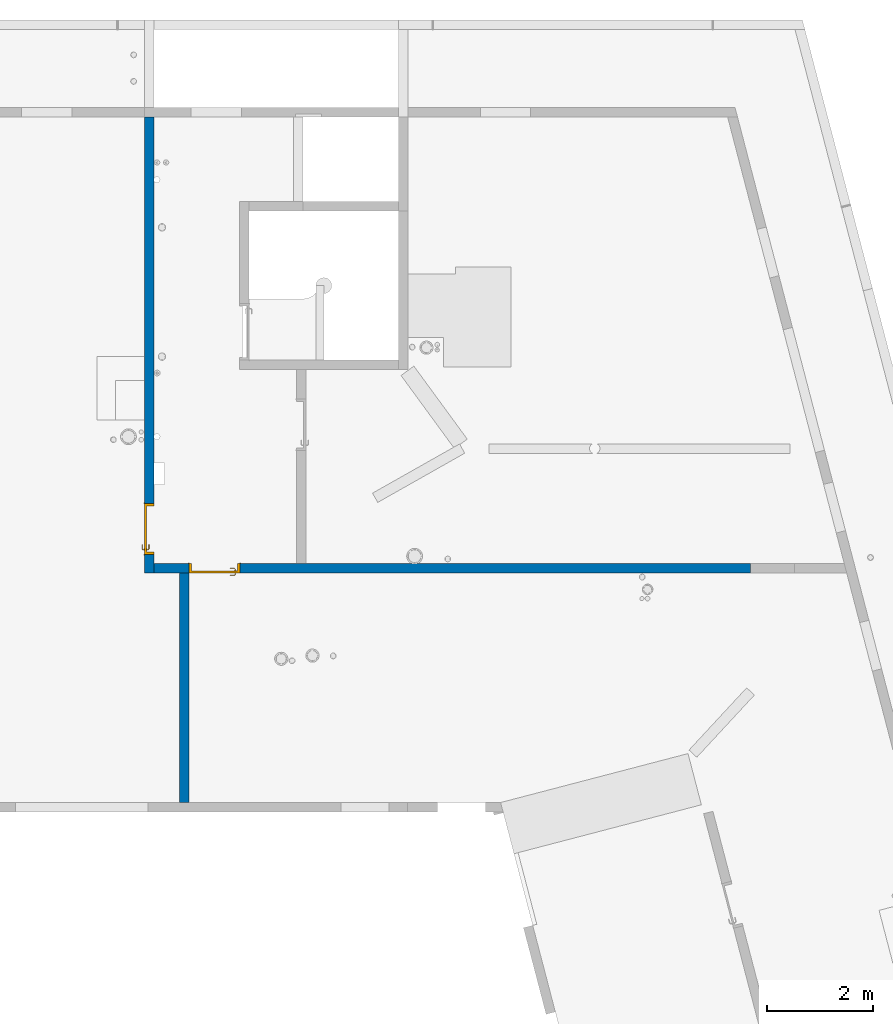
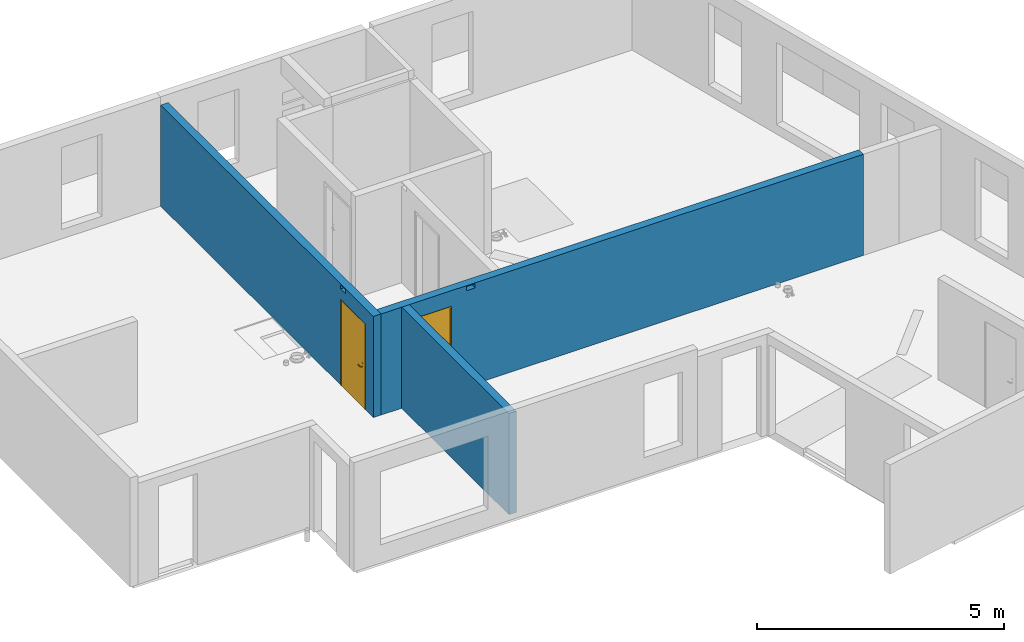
# One storey, part 13 of 28: 3 walls, 2 doors, 4 openings.
"""IFC2X3 building model written with IfcOpenShell, lengths in centimetres."""

from ifc_helpers import new_model, entity, si_unit, converted_unit, derived_unit, direction, frame, frame_2d, origin, place, context, subcontext, project, spatial, rectangle, extrude, faceted_brep, source, transform, mapped, material, material_list, layer, layer_set, layer_usage, type_object, type_shapes, element, fill, save


model = new_model("IFC2X3")

# Units and contexts
model_context = context("Model", 3, precision=0.001, world=origin(), true_north=direction((6.12303176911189e-17, 1.0)))
body_context = subcontext(model_context, "Body", "Model", "MODEL_VIEW")
ifc_project = project(units=[si_unit("LENGTHUNIT", "METRE", prefix="CENTI"), si_unit("AREAUNIT", "SQUARE_METRE"), si_unit("VOLUMEUNIT", "CUBIC_METRE"), converted_unit("PLANEANGLEUNIT", "DEGREE", entity("IfcRatioMeasure", 0.0174532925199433), si_unit("PLANEANGLEUNIT", "RADIAN"), dimensions=[0, 0, 0, 0, 0, 0, 0]), si_unit("MASSUNIT", "GRAM", prefix="KILO"), derived_unit("MASSDENSITYUNIT", [(si_unit("MASSUNIT", "GRAM", prefix="KILO"), 1), (si_unit("LENGTHUNIT", "METRE"), -3)]), si_unit("TIMEUNIT", "SECOND"), si_unit("FREQUENCYUNIT", "HERTZ"), si_unit("THERMODYNAMICTEMPERATUREUNIT", "DEGREE_CELSIUS"), derived_unit("THERMALTRANSMITTANCEUNIT", [(si_unit("MASSUNIT", "GRAM", prefix="KILO"), 1), (si_unit("THERMODYNAMICTEMPERATUREUNIT", "KELVIN"), -1), (si_unit("TIMEUNIT", "SECOND"), -3)]), derived_unit("VOLUMETRICFLOWRATEUNIT", [(si_unit("LENGTHUNIT", "METRE"), 3), (si_unit("TIMEUNIT", "SECOND"), -1)]), si_unit("ELECTRICCURRENTUNIT", "AMPERE"), si_unit("ELECTRICVOLTAGEUNIT", "VOLT"), si_unit("POWERUNIT", "WATT"), si_unit("FORCEUNIT", "NEWTON"), si_unit("ILLUMINANCEUNIT", "LUX"), si_unit("LUMINOUSFLUXUNIT", "LUMEN"), si_unit("LUMINOUSINTENSITYUNIT", "CANDELA"), derived_unit("USERDEFINED", [(si_unit("MASSUNIT", "GRAM", prefix="KILO"), -1), (si_unit("LENGTHUNIT", "METRE"), -2), (si_unit("TIMEUNIT", "SECOND"), 3), (si_unit("LUMINOUSFLUXUNIT", "LUMEN"), 1)]), derived_unit("LINEARVELOCITYUNIT", [(si_unit("LENGTHUNIT", "METRE"), 1), (si_unit("TIMEUNIT", "SECOND"), -1)]), si_unit("PRESSUREUNIT", "PASCAL"), derived_unit("USERDEFINED", [(si_unit("LENGTHUNIT", "METRE"), -2), (si_unit("MASSUNIT", "GRAM", prefix="KILO"), 1), (si_unit("TIMEUNIT", "SECOND"), -2)])], contexts=[model_context])

# Site, building, storey
site_placement = place(None, origin())
site = spatial("IfcSite", under=ifc_project, at=site_placement, Name="Default", CompositionType="ELEMENT")
building_placement = place(site_placement, origin())
building = spatial("IfcBuilding", under=site, at=building_placement, Name="CAGE 03", CompositionType="ELEMENT")
storey_placement = place(building_placement, frame((0.0, 0.0, 1420.0)))
storey = spatial("IfcBuildingStorey", under=building, at=storey_placement, Name="R+5", CompositionType="ELEMENT", Elevation=1420.0)

# Wall, openings, door
ifc_material_1 = material(Name="Béton, C25/30")
ifc_layer = layer(ifc_material_1, 18.0)
ifc_layer_set = layer_set([ifc_layer], Name="Mur de base:Voile BA 18")
ifc_layer_usage_1 = layer_usage(ifc_layer_set, "AXIS2", "POSITIVE", -9.0)
wall_type = type_object("IfcWallType", Name="Mur de base:Voile BA 18", PredefinedType="STANDARD", material=ifc_layer_set)
wall_1_placement = place(storey_placement, frame((10019.3658201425, 4248.66066607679, 0.0), z_axis=(0.0, 0.0, 1.0), x_axis=(0.0, 1.0, 0.0)))
wall_1 = element("IfcWallStandardCase", 1, at=wall_1_placement, inside=storey, type_object=wall_type, material=ifc_layer_usage_1, Name="Mur de base:Voile BA 18", ObjectType="Mur de base:Voile BA 18", context=body_context, shape_type="SweptSolid", body=[
    extrude(rectangle(XDim=862.0, YDim=17.9999999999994, at=frame_2d((431.0, 3.99680288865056e-14), x_axis=(-1.0, 0.0))), origin(), (0.0, 0.0, 1.0), 250.0),
])
opening_1_placement = place(wall_1_placement, origin())
element("IfcOpeningElement", 2, at=opening_1_placement, cuts=wall_1, Name="Mur de base:Voile BA 18", ObjectType="Opening", context=body_context, shape_type="SweptSolid", body=[
    extrude(rectangle(XDim=10.0000000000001, YDim=19.9999999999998, at=frame_2d((1.08357767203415e-13, -4.33431068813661e-13), x_axis=(1.0, 0.0))), frame((123.0, -9.0, 242.500000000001), z_axis=(0.0, 1.0, 0.0), x_axis=(0.0, 0.0, -1.0)), (0.0, 0.0, 1.0), 17.9999999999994),
])
opening_2_placement = place(wall_1_placement, frame((34.4999999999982, -9.0, 0.0)))
opening_2 = element("IfcOpeningElement", 3, at=opening_2_placement, cuts=wall_1, Name="Int. Simple:HB93:1", ObjectType="Opening", context=body_context, shape_type="SweptSolid", body=[
    extrude(rectangle(XDim=210.000000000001, YDim=96.9999999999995, at=frame_2d((105.000000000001, 48.4999999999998), x_axis=(1.0, 0.0))), frame((0.0, 0.0, 0.0), z_axis=(0.0, 1.0, 0.0), x_axis=(0.0, 0.0, 1.0)), (0.0, 0.0, 1.0), 18.0),
])
ifc_material_2 = material(Name="Finition Peinture - Blanc satiné")
ifc_material_3 = material(Name="Bois - Panneau de porte")
ifc_material_4 = material(Name="Bois - Cadre de porte")
ifc_material_list_1 = material_list([ifc_material_2, ifc_material_3, ifc_material_4])
ifc_material_list_2 = material_list([ifc_material_2, ifc_material_3, ifc_material_4])
door_style = type_object("IfcDoorStyle", Name="HB93", ConstructionType="NOTDEFINED", OperationType="SINGLE_SWING_RIGHT", ParameterTakesPrecedence=False, Sizeable=False, material=ifc_material_list_2)
shared_shape = source(origin(), body_context, "Body", "Brep", [
    faceted_brep([(96.5000000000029, -0.500000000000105, 87.0), (96.5000000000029, -0.500000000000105, 108.0), (95.535276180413, -0.500000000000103, 108.399601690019), (94.5000000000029, -0.500000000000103, 108.535898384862), (93.4647238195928, -0.500000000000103, 108.399601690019), (92.5000000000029, -0.500000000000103, 108.0), (92.5000000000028, -0.500000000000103, 87.0), (93.4647238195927, -0.500000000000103, 86.6003983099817), (94.5000000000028, -0.500000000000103, 86.464101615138), (95.5352761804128, -0.500000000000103, 86.6003983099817), (96.5000000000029, 0.0, 108.0), (96.5000000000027, 0.0, 87.0), (95.5352761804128, 0.0, 86.6003983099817), (94.5000000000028, 0.0, 86.464101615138), (93.4647238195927, 0.0, 86.6003983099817), (92.5000000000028, 0.0, 87.0), (92.5000000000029, 0.0, 108.0), (93.4647238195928, 0.0, 108.399601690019), (94.5000000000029, 0.0, 108.535898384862), (95.535276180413, 0.0, 108.399601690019)], [[[0, 1, 2, 3, 4, 5, 6, 7, 8, 9]], [[10, 11, 12, 13, 14, 15, 16, 17, 18, 19]], [[9, 12, 11, 0]], [[8, 13, 12, 9]], [[7, 14, 13, 8]], [[7, 6, 15, 14]], [[15, 6, 5, 16]], [[4, 17, 16, 5]], [[3, 18, 17, 4]], [[2, 19, 18, 3]], [[2, 1, 10, 19]], [[11, 10, 1, 0]]]),
    faceted_brep([(96.5000000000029, 4.0, 87.0), (96.5000000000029, 4.0, 108.0), (95.535276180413, 4.0, 108.399601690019), (94.5000000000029, 4.0, 108.535898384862), (93.4647238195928, 4.0, 108.399601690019), (92.500000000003, 4.0, 108.0), (92.5000000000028, 4.0, 87.0), (93.4647238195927, 4.0, 86.6003983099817), (94.5000000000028, 4.0, 86.464101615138), (95.5352761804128, 4.0, 86.6003983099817), (94.5000000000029, 4.49999999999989, 108.535898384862), (95.535276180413, 4.49999999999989, 108.399601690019), (96.5000000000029, 4.49999999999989, 108.0), (96.5000000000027, 4.49999999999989, 87.0), (95.5352761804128, 4.49999999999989, 86.6003983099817), (94.5000000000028, 4.49999999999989, 86.464101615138), (93.4647238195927, 4.49999999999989, 86.6003983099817), (92.5000000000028, 4.4999999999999, 87.0), (92.5000000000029, 4.4999999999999, 108.0), (93.4647238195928, 4.49999999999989, 108.399601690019)], [[[0, 1, 2, 3, 4, 5, 6, 7, 8, 9]], [[10, 11, 12, 13, 14, 15, 16, 17, 18, 19]], [[4, 19, 18, 5]], [[3, 10, 19, 4]], [[2, 11, 10, 3]], [[2, 1, 12, 11]], [[13, 12, 1, 0]], [[9, 14, 13, 0]], [[8, 15, 14, 9]], [[7, 16, 15, 8]], [[7, 6, 17, 16]], [[17, 6, 5, 18]]]),
    faceted_brep([(94.2974701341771, -0.500000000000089, 100.778044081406), (94.7025298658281, -0.500000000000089, 100.778044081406), (95.100000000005, -0.500000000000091, 100.699999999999), (95.100000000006, -0.500000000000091, 99.2999999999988), (94.7025298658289, -0.500000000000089, 99.221955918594), (94.297470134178, -0.500000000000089, 99.2219559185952), (93.9000000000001, -0.500000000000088, 99.3000000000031), (93.9000000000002, -0.500000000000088, 100.7), (94.7025298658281, -3.10045754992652, 100.778044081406), (95.1000000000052, -3.26509507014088, 100.7), (94.2974701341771, -2.93267631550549, 100.778044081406), (92.9298602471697, -4.30028620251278, 100.778044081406), (93.0976414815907, -4.70534593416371, 100.778044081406), (93.9000000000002, -2.76803879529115, 100.7), (93.9000000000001, -2.76803879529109, 99.3000000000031), (94.297470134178, -2.93267631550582, 99.2219559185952), (94.7025298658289, -3.10045754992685, 99.221955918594), (93.0976414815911, -4.70534593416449, 99.221955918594), (92.9298602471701, -4.30028620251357, 99.2219559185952), (95.100000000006, -3.26509507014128, 99.2999999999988), (93.2622790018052, -5.1028160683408, 100.7), (92.7652227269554, -3.90281606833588, 100.7), (92.7652227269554, -3.90281606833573, 99.3000000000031), (93.2622790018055, -5.10281606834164, 99.2999999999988), (84.4981359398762, -5.10281606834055, 100.7), (84.4981359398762, -4.70534593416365, 100.778044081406), (84.4981359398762, -4.30028620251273, 100.778044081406), (84.4981359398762, -3.90281606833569, 100.699999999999), (84.4981359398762, -3.90281606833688, 99.3000000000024), (84.4981359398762, -4.30028620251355, 99.2219559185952), (84.4981359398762, -4.70534593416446, 99.221955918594), (84.4981359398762, -5.10281606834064, 99.2999999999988), (88.7139980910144, -4.5028160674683, 100.78786867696), (89.2692302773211, -5.1028160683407, 100.7), (88.6316793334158, -3.90281606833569, 100.7), (88.631679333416, -3.90281606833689, 99.3000000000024), (88.7139981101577, -4.50281607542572, 99.2121313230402), (89.2692310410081, -5.10281606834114, 99.2999999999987)], [[[0, 1, 2, 3, 4, 5, 6, 7]], [[2, 1, 8, 9]], [[1, 0, 10, 11, 12, 8]], [[0, 7, 13, 10]], [[14, 13, 7, 6]], [[5, 15, 14, 6]], [[5, 4, 16, 17, 18, 15]], [[3, 19, 16, 4]], [[9, 19, 3, 2]], [[9, 8, 12, 20]], [[10, 13, 21, 11]], [[22, 21, 13, 14]], [[14, 15, 18, 22]], [[16, 19, 23, 17]], [[20, 23, 19, 9]], [[24, 25, 26, 27, 28, 29, 30, 31]], [[32, 25, 33]], [[33, 25, 24]], [[33, 20, 12]], [[11, 34, 32]], [[34, 11, 21]], [[27, 26, 34]], [[32, 26, 25]], [[32, 34, 26]], [[32, 33, 12]], [[11, 32, 12]], [[21, 22, 35, 28, 27, 34]], [[36, 29, 35]], [[30, 36, 37]], [[18, 35, 22]], [[29, 28, 35]], [[30, 37, 31]], [[37, 17, 23]], [[36, 17, 37]], [[36, 18, 17]], [[36, 35, 18]], [[29, 36, 30]], [[23, 20, 33, 24, 31, 37]]]),
    faceted_brep([(94.2974701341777, 4.49999999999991, 99.2219559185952), (94.7025298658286, 4.49999999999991, 99.221955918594), (95.1000000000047, 4.49999999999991, 99.2999999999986), (95.1000000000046, 4.49999999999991, 100.7), (94.7025298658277, 4.49999999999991, 100.778044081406), (94.2974701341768, 4.49999999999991, 100.778044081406), (93.8999999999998, 4.49999999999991, 100.7), (93.900000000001, 4.49999999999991, 99.3000000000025), (93.8999999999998, 6.7485204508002, 100.7), (93.8999999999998, 6.74852045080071, 99.3000000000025), (94.2974701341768, 6.91315797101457, 100.778044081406), (94.7025298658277, 7.0809392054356, 100.778044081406), (93.0838906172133, 8.69957845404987, 100.778044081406), (92.9161093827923, 8.29451872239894, 100.778044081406), (95.1000000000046, 7.24557672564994, 100.7), (95.1000000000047, 7.24557672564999, 99.2999999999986), (94.7025298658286, 7.08093920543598, 99.221955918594), (94.2974701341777, 6.91315797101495, 99.2219559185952), (92.9161093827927, 8.29451872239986, 99.2219559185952), (93.0838906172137, 8.69957845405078, 99.221955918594), (92.751471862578, 7.89704858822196, 100.7), (92.7514718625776, 7.89704858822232, 99.3000000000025), (93.2485281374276, 9.09704858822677, 100.7), (93.2485281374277, 9.09704858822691, 99.2999999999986), (84.4954216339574, 8.29451872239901, 100.778044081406), (84.4954216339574, 8.69957845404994, 100.778044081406), (84.4954216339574, 9.09704858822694, 100.7), (84.4954216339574, 9.09704858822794, 99.2999999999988), (84.4954216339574, 8.6995784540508, 99.221955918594), (84.4954216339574, 8.29451872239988, 99.2219559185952), (84.4954216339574, 7.89704858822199, 99.3000000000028), (84.4954216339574, 7.89704858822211, 100.7), (88.6234467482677, 7.89704858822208, 100.7), (88.6234479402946, 7.89704858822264, 99.3000000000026), (88.7057655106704, 8.49704858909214, 100.78786867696), (89.255479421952, 9.09704858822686, 100.7), (89.2554795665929, 9.09704858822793, 99.2999999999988), (88.7057654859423, 8.49704858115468, 99.2121313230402)], [[[0, 1, 2, 3, 4, 5, 6, 7]], [[8, 9, 7, 6]], [[5, 10, 8, 6]], [[5, 4, 11, 12, 13, 10]], [[3, 14, 11, 4]], [[14, 3, 2, 15]], [[2, 1, 16, 15]], [[1, 0, 17, 18, 19, 16]], [[0, 7, 9, 17]], [[20, 21, 9, 8]], [[8, 10, 13, 20]], [[14, 22, 12, 11]], [[23, 22, 14, 15]], [[15, 16, 19, 23]], [[17, 9, 21, 18]], [[24, 25, 26, 27, 28, 29, 30, 31]], [[21, 20, 32, 31, 30, 33]], [[34, 24, 32]], [[25, 34, 35]], [[13, 32, 20]], [[24, 31, 32]], [[25, 35, 26]], [[35, 12, 22]], [[34, 12, 35]], [[34, 13, 12]], [[34, 32, 13]], [[24, 34, 25]], [[22, 23, 36, 27, 26, 35]], [[37, 28, 36]], [[36, 28, 27]], [[36, 23, 19]], [[18, 33, 37]], [[33, 18, 21]], [[30, 29, 33]], [[37, 29, 28]], [[37, 33, 29]], [[37, 36, 19]], [[18, 37, 19]]]),
    faceted_brep([(100.500000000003, 4.0, 206.5), (100.500000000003, 4.0, 0.0), (10.5000000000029, 4.0, 0.0), (10.5000000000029, 4.0, 206.5), (100.500000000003, 0.0, 206.5), (10.5000000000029, 0.0, 206.5), (10.5000000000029, 0.0, 0.0), (100.500000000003, 0.0, 0.0)], [[[0, 1, 2, 3]], [[4, 5, 6, 7]], [[3, 5, 4, 0]], [[2, 6, 5, 3]], [[1, 7, 6, 2]], [[0, 4, 7, 1]]]),
    faceted_brep([(104.0, 0.0, 0.0), (100.500000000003, 0.0, 0.0), (100.500000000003, 4.0, 0.0), (99.0, 4.0, 0.0), (99.0, 18.0, 0.0), (104.0, 18.0, 0.0), (104.0, 18.0, 210.0), (104.0, 0.0, 210.0), (99.0, 18.0, 205.0), (12.0, 18.0, 205.0), (12.0, 18.0, 0.0), (7.0, 18.0, 0.0), (7.0, 18.0, 210.0), (99.0, 4.0, 205.0), (100.500000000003, 4.0, 206.5), (10.5000000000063, 4.0, 206.5), (10.5000000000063, 4.0, 0.0), (12.0, 4.0, 0.0), (12.0, 4.0, 205.0), (100.500000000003, 0.0, 206.5), (7.0, 0.0, 210.0), (7.0, 0.0, 0.0), (10.5000000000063, 0.0, 0.0), (10.5000000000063, 0.0, 206.5)], [[[0, 1, 2, 3, 4, 5]], [[5, 6, 7, 0]], [[4, 8, 9, 10, 11, 12, 6, 5]], [[3, 13, 8, 4]], [[2, 14, 15, 16, 17, 18, 13, 3]], [[1, 19, 14, 2]], [[0, 7, 20, 21, 22, 23, 19, 1]], [[12, 11, 21, 20]], [[21, 11, 10, 17, 16, 22]], [[18, 17, 10, 9]], [[23, 22, 16, 15]], [[6, 12, 20, 7]], [[13, 18, 9, 8]], [[19, 23, 15, 14]]]),
    faceted_brep([(102.500000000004, 18.0, 0.0), (102.500000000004, 18.5000000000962, 0.0), (105.500000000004, 18.5000000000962, 0.0), (105.500000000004, 18.0, 0.0), (105.500000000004, 18.0, 211.500000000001), (5.50000000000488, 18.0, 211.500000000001), (5.50000000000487, 18.0, 0.0), (8.50000000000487, 18.0, 0.0), (8.50000000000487, 18.0, 208.500000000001), (102.500000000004, 18.0, 208.500000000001), (105.500000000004, 18.5000000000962, 211.500000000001), (102.500000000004, 18.5000000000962, 208.500000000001), (8.50000000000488, 18.5000000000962, 208.500000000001), (8.50000000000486, 18.5000000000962, 0.0), (5.50000000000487, 18.5000000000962, 0.0), (5.50000000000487, 18.5000000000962, 211.500000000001)], [[[0, 1, 2, 3]], [[3, 4, 5, 6, 7, 8, 9, 0]], [[2, 10, 4, 3]], [[1, 11, 12, 13, 14, 15, 10, 2]], [[0, 9, 11, 1]], [[7, 6, 14, 13]], [[8, 7, 13, 12]], [[15, 14, 6, 5]], [[10, 15, 5, 4]], [[9, 8, 12, 11]]]),
    faceted_brep([(105.500000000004, -0.5, 0.0), (105.500000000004, -0.5, 211.500000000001), (5.50000000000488, -0.5, 211.500000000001), (5.50000000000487, -0.5, 0.0), (8.50000000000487, -0.5, 0.0), (8.50000000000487, -0.5, 208.500000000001), (102.500000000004, -0.5, 208.500000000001), (102.500000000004, -0.5, 0.0), (105.500000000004, 0.0, 0.0), (105.500000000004, 0.0, 211.500000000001), (102.500000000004, 0.0, 0.0), (102.500000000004, 0.0, 208.500000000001), (8.50000000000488, 0.0, 208.500000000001), (8.50000000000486, 0.0, 0.0), (5.50000000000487, 0.0, 0.0), (5.50000000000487, 0.0, 211.500000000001)], [[[0, 1, 2, 3, 4, 5, 6, 7]], [[8, 9, 1, 0]], [[10, 11, 12, 13, 14, 15, 9, 8]], [[7, 6, 11, 10]], [[5, 4, 13, 12]], [[15, 14, 3, 2]], [[9, 15, 2, 1]], [[6, 5, 12, 11]], [[4, 3, 14, 13]], [[7, 10, 8, 0]]]),
])
type_shapes(door_style, [shared_shape])
door_1_placement = place(opening_2_placement, frame((104.0, 18.0, 0.0), z_axis=(0.0, 0.0, 1.0), x_axis=(-1.0, 0.0, 0.0)))
door_1 = element("IfcDoor", 4, at=door_1_placement, inside=storey, type_object=door_style, material=ifc_material_list_1, Name="Int. Simple:HB93", ObjectType="HB93", OverallHeight=210.000000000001, OverallWidth=96.9999999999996, context=body_context, shape_type="MappedRepresentation", body=[
    mapped(shared_shape, transform((0.0, 0.0, 0.0), scale=1.0)),
])
fill(opening_2, door_1)

ifc_layer_usage_2 = layer_usage(ifc_layer_set, "AXIS2", "POSITIVE", -9.0)
wall_2_placement = place(storey_placement, frame((11155.8658201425, 4257.66066607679, 0.0), z_axis=(0.0, 0.0, 1.0), x_axis=(-1.0, 0.0, 0.0)))
wall_2 = element("IfcWallStandardCase", 5, at=wall_2_placement, inside=storey, type_object=wall_type, material=ifc_layer_usage_2, Name="Mur de base:Voile BA 18", ObjectType="Mur de base:Voile BA 18", context=body_context, shape_type="SweptSolid", body=[
    extrude(rectangle(XDim=1127.5, YDim=17.9999999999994, at=frame_2d((563.749999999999, -1.4299672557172e-13), x_axis=(-1.0, 0.0))), origin(), (0.0, 0.0, 1.0), 250.0),
])
opening_3_placement = place(wall_2_placement, origin())
element("IfcOpeningElement", 6, at=opening_3_placement, cuts=wall_2, Name="Mur de base:Voile BA 18", ObjectType="Opening", context=body_context, shape_type="SweptSolid", body=[
    extrude(rectangle(XDim=10.0000000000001, YDim=20.0000000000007, at=frame_2d((-8.66862137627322e-13, 1.08357767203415e-13), x_axis=(0.0, 1.0))), frame((918.0, -9.0, 242.500000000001), z_axis=(0.0, 1.0, 0.0), x_axis=(1.0, 0.0, 0.0)), (0.0, 0.0, 1.0), 17.9999999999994),
])
opening_4_placement = place(wall_2_placement, frame((964.499999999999, -9.0, 0.0)))
opening_4 = element("IfcOpeningElement", 7, at=opening_4_placement, cuts=wall_2, Name="Int. Simple:HB93:1", ObjectType="Opening", context=body_context, shape_type="SweptSolid", body=[
    extrude(rectangle(XDim=210.000000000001, YDim=96.9999999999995, at=frame_2d((105.000000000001, 48.4999999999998), x_axis=(1.0, 0.0))), frame((0.0, 0.0, 0.0), z_axis=(0.0, 1.0, 0.0), x_axis=(0.0, 0.0, 1.0)), (0.0, 0.0, 1.0), 18.0),
])
ifc_material_list_3 = material_list([ifc_material_2, ifc_material_3, ifc_material_4])
door_2_placement = place(opening_4_placement, frame((104.0, 18.0, 0.0), z_axis=(0.0, 0.0, 1.0), x_axis=(-1.0, 0.0, 0.0)))
door_2 = element("IfcDoor", 8, at=door_2_placement, inside=storey, type_object=door_style, material=ifc_material_list_3, Name="Int. Simple:HB93", ObjectType="HB93", OverallHeight=210.000000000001, OverallWidth=96.9999999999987, context=body_context, shape_type="MappedRepresentation", body=[
    mapped(shared_shape, transform((0.0, 0.0, 0.0), scale=1.0)),
])
fill(opening_4, door_2)

# Wall
ifc_layer_usage_3 = layer_usage(ifc_layer_set, "AXIS2", "POSITIVE", -9.0)
wall_3_placement = place(storey_placement, frame((10085.3658201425, 4248.66066607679, 0.0), z_axis=(0.0, 0.0, 1.0), x_axis=(0.0, -1.0, 0.0)))
element("IfcWallStandardCase", 9, at=wall_3_placement, inside=storey, type_object=wall_type, material=ifc_layer_usage_3, Name="Mur de base:Voile BA 18", ObjectType="Mur de base:Voile BA 18", context=body_context, shape_type="SweptSolid", body=[
    extrude(rectangle(XDim=434.000000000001, YDim=17.9999999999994, at=frame_2d((217.0, 2.77999845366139e-13), x_axis=(-1.0, 0.0))), origin(), (0.0, 0.0, 1.0), 250.0),
])

save(model, "model.ifc")
